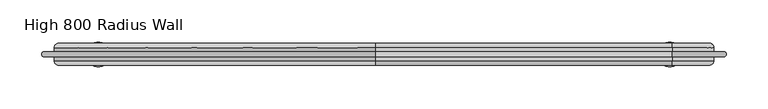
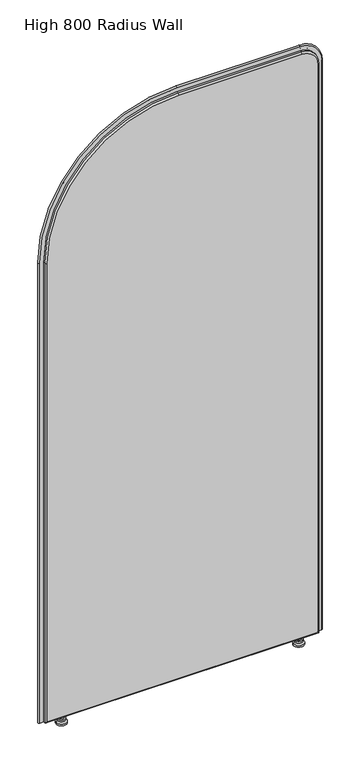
"""IFC4 building model written with IfcOpenShell, lengths in millimetres: furniture geometry, DBLTD_Sixteen3_PrivacyScreens_Artus_ArchRadius : High 800 Radius Wall."""

from ifc_helpers import new_model, si_unit, point, frame, origin, place, context, project, spatial, polyline, circle_curve, ellipse_curve, trimmed, source, transform, mapped, element, save
from ifc_brep_helpers import plane_surface, cylinder_surface, revolved_surface, advanced_brep


def high_800_radius_wall_88a6a849(model_context):
    return source(origin(), model_context, "Body", "AdvancedBrep", [
        advanced_brep(
        [(342.2938623, -820.0, 22.0), (335.2938623, -820.0, 22.0), (349.2938623, -820.0, 22.0), (335.2938623, -820.0, 15.0), (349.2938623, -820.0, 15.0), (330.8431626, -820.0, 15.0), (353.744562, -820.0, 15.0), (330.8431626, -820.0, 10.0), (353.744562, -820.0, 10.0), (327.2938623, -820.0, 5.0), (357.2938623, -820.0, 5.0), (327.2938623, -820.0, 0.0), (357.2938623, -820.0, 0.0), (342.2938623, -820.0, 0.0)],
        [
            (0, 1),
            (1, 2, circle_curve(frame((342.2938623, -820.0, 22.0), z_axis=(0.0, 0.0, 1.0), x_axis=(1.0, 0.0, 0.0)), 7.0)),
            (2, 0),
            (2, 1, circle_curve(frame((342.2938623, -820.0, 22.0), z_axis=(0.0, 0.0, 1.0), x_axis=(1.0, 0.0, 0.0)), 7.0)),
            (1, 3),
            (3, 4, circle_curve(frame((342.2938623, -820.0, 15.0), z_axis=(0.0, 0.0, 1.0), x_axis=(1.0, 0.0, 0.0)), 7.0)),
            (4, 2),
            (4, 3, circle_curve(frame((342.2938623, -820.0, 15.0), z_axis=(0.0, 0.0, 1.0), x_axis=(1.0, 0.0, 0.0)), 7.0)),
            (3, 5),
            (5, 6, circle_curve(frame((342.2938623, -820.0, 15.0), z_axis=(0.0, 0.0, 1.0), x_axis=(1.0, 0.0, 0.0)), 11.4506997)),
            (6, 4),
            (6, 5, circle_curve(frame((342.2938623, -820.0, 15.0), z_axis=(0.0, 0.0, 1.0), x_axis=(1.0, 0.0, 0.0)), 11.4506997)),
            (5, 7),
            (7, 8, circle_curve(frame((342.2938623, -820.0, 10.0), z_axis=(0.0, 0.0, 1.0), x_axis=(1.0, 0.0, 0.0)), 11.4506997)),
            (8, 6),
            (8, 7, circle_curve(frame((342.2938623, -820.0, 10.0), z_axis=(0.0, 0.0, 1.0), x_axis=(1.0, 0.0, 0.0)), 11.4506997)),
            (7, 9),
            (9, 10, circle_curve(frame((342.2938623, -820.0, 5.0), z_axis=(0.0, 0.0, 1.0), x_axis=(1.0, 0.0, 0.0)), 15.0)),
            (10, 8),
            (10, 9, circle_curve(frame((342.2938623, -820.0, 5.0), z_axis=(0.0, 0.0, 1.0), x_axis=(1.0, 0.0, 0.0)), 15.0)),
            (9, 11),
            (11, 12, circle_curve(frame((342.2938623, -820.0, 0.0), z_axis=(0.0, 0.0, 1.0), x_axis=(1.0, 0.0, 0.0)), 15.0)),
            (12, 10),
            (12, 11, circle_curve(frame((342.2938623, -820.0, 0.0), z_axis=(0.0, 0.0, 1.0), x_axis=(1.0, 0.0, 0.0)), 15.0)),
            (11, 13),
            (13, 12),
        ],
        [
            plane_surface(frame((342.2938623, -820.0, 22.0), z_axis=(0.0, 0.0, 1.0), x_axis=(1.0, 0.0, 0.0))),
            cylinder_surface(frame((342.2938623, -820.0, 5.0), z_axis=(0.0, 0.0, 1.0), x_axis=(1.0, 0.0, 0.0)), 7.0),
            plane_surface(frame((342.2938623, -820.0, 15.0), z_axis=(0.0, 0.0, 1.0), x_axis=(1.0, 0.0, 0.0))),
            cylinder_surface(frame((342.2938623, -820.0, 5.0), z_axis=(0.0, 0.0, 1.0), x_axis=(1.0, 0.0, 0.0)), 11.4506997),
            revolved_surface(polyline([(357.2938623, -820.0, 5.0), (353.744562, -820.0, 10.0)]), (342.2938623, -820.0, 5.0), (0.0, 0.0, 1.0)),
            cylinder_surface(frame((342.2938623, -820.0, 5.0), z_axis=(0.0, 0.0, 1.0), x_axis=(1.0, 0.0, 0.0)), 15.0),
            plane_surface(frame((342.2938623, -820.0, 0.0), z_axis=(0.0, 0.0, -1.0), x_axis=(1.0, 0.0, 0.0))),
        ],
        [
            (0, [[1, 2, 3]]),
            (0, [[-3, 4, -1]]),
            (1, [[5, 6, 7, -2]]),
            (1, [[-7, 8, -5, -4]]),
            (2, [[9, 10, 11, -6]]),
            (2, [[-11, 12, -9, -8]]),
            (3, [[13, 14, 15, -10]]),
            (3, [[-15, 16, -13, -12]]),
            (4, [[17, 18, 19, -14]]),
            (4, [[-19, 20, -17, -16]]),
            (5, [[21, 22, 23, -18]]),
            (5, [[-23, 24, -21, -20]]),
            (6, [[25, 26, -22]]),
            (6, [[-26, -25, -24]]),
        ],
    ),
        advanced_brep(
        [(-335.2938623, -820.0, 22.0), (-342.2938623, -820.0, 22.0), (-349.2938623, -820.0, 22.0), (-335.2938623, -820.0, 15.0), (-349.2938623, -820.0, 15.0), (-330.8431626, -820.0, 15.0), (-353.744562, -820.0, 15.0), (-330.8431626, -820.0, 10.0), (-353.744562, -820.0, 10.0), (-327.2938623, -820.0, 5.0), (-357.2938623, -820.0, 5.0), (-327.2938623, -820.0, 0.0), (-357.2938623, -820.0, 0.0), (-342.2938623, -820.0, 0.0)],
        [
            (0, 1),
            (1, 2),
            (2, 0, circle_curve(frame((-342.2938623, -820.0, 22.0), z_axis=(0.0, 0.0, 1.0), x_axis=(-1.0, 0.0, 0.0)), 7.0)),
            (0, 2, circle_curve(frame((-342.2938623, -820.0, 22.0), z_axis=(0.0, 0.0, 1.0), x_axis=(-1.0, 0.0, 0.0)), 7.0)),
            (3, 0),
            (2, 4),
            (4, 3, circle_curve(frame((-342.2938623, -820.0, 15.0), z_axis=(0.0, 0.0, 1.0), x_axis=(-1.0, 0.0, 0.0)), 7.0)),
            (3, 4, circle_curve(frame((-342.2938623, -820.0, 15.0), z_axis=(0.0, 0.0, 1.0), x_axis=(-1.0, 0.0, 0.0)), 7.0)),
            (5, 3),
            (4, 6),
            (6, 5, circle_curve(frame((-342.2938623, -820.0, 15.0), z_axis=(0.0, 0.0, 1.0), x_axis=(-1.0, 0.0, 0.0)), 11.4506997)),
            (5, 6, circle_curve(frame((-342.2938623, -820.0, 15.0), z_axis=(0.0, 0.0, 1.0), x_axis=(-1.0, 0.0, 0.0)), 11.4506997)),
            (7, 5),
            (6, 8),
            (8, 7, circle_curve(frame((-342.2938623, -820.0, 10.0), z_axis=(0.0, 0.0, 1.0), x_axis=(-1.0, 0.0, 0.0)), 11.4506997)),
            (7, 8, circle_curve(frame((-342.2938623, -820.0, 10.0), z_axis=(0.0, 0.0, 1.0), x_axis=(-1.0, 0.0, 0.0)), 11.4506997)),
            (9, 7),
            (8, 10),
            (10, 9, circle_curve(frame((-342.2938623, -820.0, 5.0), z_axis=(0.0, 0.0, 1.0), x_axis=(-1.0, 0.0, 0.0)), 15.0)),
            (9, 10, circle_curve(frame((-342.2938623, -820.0, 5.0), z_axis=(0.0, 0.0, 1.0), x_axis=(-1.0, 0.0, 0.0)), 15.0)),
            (11, 9),
            (10, 12),
            (12, 11, circle_curve(frame((-342.2938623, -820.0, 0.0), z_axis=(0.0, 0.0, 1.0), x_axis=(-1.0, 0.0, 0.0)), 15.0)),
            (11, 12, circle_curve(frame((-342.2938623, -820.0, 0.0), z_axis=(0.0, 0.0, 1.0), x_axis=(-1.0, 0.0, 0.0)), 15.0)),
            (13, 11),
            (12, 13),
        ],
        [
            plane_surface(frame((-342.2938623, -820.0, 22.0), z_axis=(0.0, 0.0, 1.0), x_axis=(-1.0, 0.0, 0.0))),
            cylinder_surface(frame((-342.2938623, -820.0, 5.0), z_axis=(0.0, 0.0, -1.0), x_axis=(-1.0, 0.0, 0.0)), 7.0),
            plane_surface(frame((-342.2938623, -820.0, 15.0), z_axis=(0.0, 0.0, 1.0), x_axis=(-1.0, 0.0, 0.0))),
            cylinder_surface(frame((-342.2938623, -820.0, 5.0), z_axis=(0.0, 0.0, -1.0), x_axis=(-1.0, 0.0, 0.0)), 11.4506997),
            revolved_surface(polyline([(-353.744562, -820.0, 10.0), (-357.2938623, -820.0, 5.0)]), (-342.2938623, -820.0, 5.0), (0.0, 0.0, -1.0)),
            cylinder_surface(frame((-342.2938623, -820.0, 5.0), z_axis=(0.0, 0.0, -1.0), x_axis=(-1.0, 0.0, 0.0)), 15.0),
            plane_surface(frame((-342.2938623, -820.0, 0.0), z_axis=(0.0, 0.0, -1.0), x_axis=(-1.0, 0.0, 0.0))),
        ],
        [
            (0, [[1, 2, 3]]),
            (0, [[-2, -1, 4]]),
            (1, [[5, -3, 6, 7]]),
            (1, [[-6, -4, -5, 8]]),
            (2, [[9, -7, 10, 11]]),
            (2, [[-10, -8, -9, 12]]),
            (3, [[13, -11, 14, 15]]),
            (3, [[-14, -12, -13, 16]]),
            (4, [[17, -15, 18, 19]]),
            (4, [[-18, -16, -17, 20]]),
            (5, [[21, -19, 22, 23]]),
            (5, [[-22, -20, -21, 24]]),
            (6, [[25, -23, 26]]),
            (6, [[-26, -24, -25]]),
        ],
    ),
        advanced_brep(
        [(-390.0, -807.0, 27.0), (-390.0, -807.0, 1425.0), (-10.0, -807.0, 1805.0), (345.0, -807.0, 1805.0), (390.0, -807.0, 1760.0), (390.0, -807.0, 27.0), (390.0, -833.0, 27.0), (390.0, -833.0, 1760.0), (345.0, -833.0, 1805.0), (-10.0, -833.0, 1805.0), (-390.0, -833.0, 1425.0), (-390.0, -833.0, 27.0), (345.0, -812.0, 1810.0), (-10.0, -812.0, 1810.0), (-10.0, -828.0, 1810.0), (345.0, -828.0, 1810.0), (-395.0, -812.0, 1425.0), (-395.0, -828.0, 1425.0), (-395.0, -812.0, 22.0), (-395.0, -828.0, 22.0), (395.0, -812.0, 22.0), (395.0, -828.0, 22.0), (395.0, -812.0, 1760.0), (395.0, -828.0, 1760.0)],
        [
            (0, 1),
            (1, 2, circle_curve(frame((-10.0, -807.0, 1425.0), z_axis=(0.0, 1.0, 0.0), x_axis=(0.0, 0.0, 1.0)), 380.0)),
            (2, 3),
            (3, 4, circle_curve(frame((345.0, -807.0, 1760.0), z_axis=(0.0, 1.0, 0.0), x_axis=(1.0, 0.0, 0.0)), 45.0)),
            (4, 5),
            (5, 0),
            (6, 7),
            (7, 8, circle_curve(frame((345.0, -833.0, 1760.0), z_axis=(0.0, -1.0, 0.0), x_axis=(1.0, 0.0, 0.0)), 45.0)),
            (8, 9),
            (9, 10, circle_curve(frame((-10.0, -833.0, 1425.0), z_axis=(0.0, -1.0, 0.0), x_axis=(0.0, 0.0, 1.0)), 380.0)),
            (10, 11),
            (11, 6),
            (12, 13),
            (13, 14),
            (14, 15),
            (15, 12),
            (13, 16, circle_curve(frame((-10.0, -812.0, 1425.0), z_axis=(0.0, -1.0, 0.0), x_axis=(1.0, 0.0, 0.0)), 385.0)),
            (16, 17),
            (17, 14, circle_curve(frame((-10.0, -828.0, 1425.0), z_axis=(0.0, 1.0, 0.0), x_axis=(1.0, 0.0, 0.0)), 385.0)),
            (16, 18),
            (18, 19),
            (19, 17),
            (18, 20),
            (20, 21),
            (21, 19),
            (20, 22),
            (22, 23),
            (23, 21),
            (15, 23, circle_curve(frame((345.0, -828.0, 1760.0), z_axis=(0.0, 1.0, 0.0), x_axis=(1.0, 0.0, 0.0)), 50.0)),
            (22, 12, circle_curve(frame((345.0, -812.0, 1760.0), z_axis=(0.0, -1.0, 0.0), x_axis=(1.0, 0.0, 0.0)), 50.0)),
            (18, 0, ellipse_curve(frame((-390.0, -812.0, 27.0), z_axis=(0.7071067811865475, 0.0, -0.7071067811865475), x_axis=(0.7071067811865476, 0.0, 0.7071067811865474)), 7.0710678, 5.0)),
            (5, 20, ellipse_curve(frame((390.0, -812.0, 27.0), z_axis=(-0.7071067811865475, 0.0, -0.7071067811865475), x_axis=(0.7071067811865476, 0.0, -0.7071067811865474)), 7.0710678, 5.0)),
            (11, 19, ellipse_curve(frame((-390.0, -828.0, 27.0), z_axis=(0.7071067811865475, 0.0, -0.7071067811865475), x_axis=(0.7071067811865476, 0.0, 0.7071067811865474)), 7.0710678, 5.0)),
            (21, 6, ellipse_curve(frame((390.0, -828.0, 27.0), z_axis=(-0.7071067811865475, 0.0, -0.7071067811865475), x_axis=(0.7071067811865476, 0.0, -0.7071067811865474)), 7.0710678, 5.0)),
            (4, 22, circle_curve(frame((390.0, -812.0, 1760.0), z_axis=(0.0, 0.0, -1.0), x_axis=(1.0, 0.0, 0.0)), 5.0)),
            (23, 7, circle_curve(frame((390.0, -828.0, 1760.0), z_axis=(0.0, 0.0, -1.0), x_axis=(1.0, 0.0, 0.0)), 5.0)),
            (3, 12, circle_curve(frame((345.0, -812.0, 1805.0), z_axis=(1.0, 0.0, 0.0), x_axis=(0.0, 0.0, 1.0)), 5.0)),
            (15, 8, circle_curve(frame((345.0, -828.0, 1805.0), z_axis=(1.0, 0.0, 0.0), x_axis=(0.0, 0.0, 1.0)), 5.0)),
            (2, 13, circle_curve(frame((-10.0, -812.0, 1805.0), z_axis=(1.0, 0.0, 0.0), x_axis=(0.0, 0.0, 1.0)), 5.0)),
            (14, 9, circle_curve(frame((-10.0, -828.0, 1805.0), z_axis=(1.0, 0.0, 0.0), x_axis=(0.0, 0.0, 1.0)), 5.0)),
            (1, 16, circle_curve(frame((-390.0, -812.0, 1425.0), z_axis=(0.0, 0.0, 1.0), x_axis=(-1.0, 0.0, 0.0)), 5.0)),
            (17, 10, circle_curve(frame((-390.0, -828.0, 1425.0), z_axis=(0.0, 0.0, 1.0), x_axis=(-1.0, 0.0, 0.0)), 5.0)),
        ],
        [
            plane_surface(frame((-10.0, -807.0, 1810.0), z_axis=(0.0, 1.0, 0.0), x_axis=(-1.0, 0.0, 0.0))),
            plane_surface(frame((-10.0, -833.0, 1810.0), z_axis=(0.0, -1.0, 0.0), x_axis=(1.0, 0.0, 0.0))),
            plane_surface(frame((345.0, -807.0, 1810.0), z_axis=(0.0, 0.0, 1.0), x_axis=(0.0, -1.0, 0.0))),
            cylinder_surface(frame((-10.0, -833.0, 1425.0), z_axis=(0.0, 1.0, 0.0), x_axis=(1.0, 0.0, 0.0)), 385.0),
            plane_surface(frame((-395.0, -807.0, 1425.0), z_axis=(-1.0, 0.0, 0.0), x_axis=(0.0, -1.0, 0.0))),
            plane_surface(frame((-395.0, -807.0, 22.0), z_axis=(0.0, 0.0, -1.0), x_axis=(0.0, -1.0, 0.0))),
            plane_surface(frame((395.0, -807.0, 22.0), z_axis=(1.0, 0.0, 0.0), x_axis=(0.0, -1.0, 0.0))),
            cylinder_surface(frame((345.0, -833.0, 1760.0), z_axis=(0.0, 1.0, 0.0), x_axis=(1.0, 0.0, 0.0)), 50.0),
            cylinder_surface(frame((-395.0, -812.0, 27.0), z_axis=(1.0, 0.0, 0.0), x_axis=(0.0, 0.0, -1.0)), 5.0),
            cylinder_surface(frame((-395.0, -828.0, 27.0), z_axis=(1.0, 0.0, 0.0), x_axis=(0.0, 0.0, -1.0)), 5.0),
            cylinder_surface(frame((390.0, -812.0, 22.0), z_axis=(0.0, 0.0, 1.0), x_axis=(1.0, 0.0, 0.0)), 5.0),
            cylinder_surface(frame((390.0, -828.0, 22.0), z_axis=(0.0, 0.0, 1.0), x_axis=(1.0, 0.0, 0.0)), 5.0),
            revolved_surface(trimmed(ellipse_curve(frame((390.0, -812.0, 1760.0), z_axis=(0.0, 0.0, 1.0), x_axis=(1.0, 0.0, 0.0)), 5.0, 5.0), [point((395.0, -812.0, 1760.0))], [point((390.0, -807.0, 1760.0))], True, "CARTESIAN"), (345.0, -807.0, 1760.0), (0.0, 1.0, 0.0)),
            revolved_surface(trimmed(ellipse_curve(frame((390.0, -828.0, 1760.0), z_axis=(0.0, 0.0, 1.0), x_axis=(1.0, 0.0, 0.0)), 5.0, 5.0), [point((390.0, -833.0, 1760.0))], [point((395.0, -828.0, 1760.0))], True, "CARTESIAN"), (345.0, -807.0, 1760.0), (0.0, 1.0, 0.0)),
            cylinder_surface(frame((345.0, -812.0, 1805.0), z_axis=(-1.0, 0.0, 0.0), x_axis=(0.0, 0.0, 1.0)), 5.0),
            cylinder_surface(frame((345.0, -828.0, 1805.0), z_axis=(-1.0, 0.0, 0.0), x_axis=(0.0, 0.0, 1.0)), 5.0),
            revolved_surface(trimmed(ellipse_curve(frame((-10.0, -812.0, 1805.0), z_axis=(-1.0, 0.0, 0.0), x_axis=(0.0, 0.0, 1.0)), 5.0, 5.0), [point((-10.0, -812.0, 1810.0))], [point((-10.0, -807.0, 1805.0))], True, "CARTESIAN"), (-10.0, -807.0, 1425.0), (0.0, 1.0, 0.0)),
            revolved_surface(trimmed(ellipse_curve(frame((-10.0, -828.0, 1805.0), z_axis=(-1.0, 0.0, 0.0), x_axis=(0.0, 0.0, 1.0)), 5.0, 5.0), [point((-10.0, -833.0, 1805.0))], [point((-10.0, -828.0, 1810.0))], True, "CARTESIAN"), (-10.0, -807.0, 1425.0), (0.0, 1.0, 0.0)),
            cylinder_surface(frame((-390.0, -812.0, 1425.0), z_axis=(0.0, 0.0, -1.0), x_axis=(-1.0, 0.0, 0.0)), 5.0),
            cylinder_surface(frame((-390.0, -828.0, 1425.0), z_axis=(0.0, 0.0, -1.0), x_axis=(-1.0, 0.0, 0.0)), 5.0),
        ],
        [
            (0, [[1, 2, 3, 4, 5, 6]]),
            (1, [[7, 8, 9, 10, 11, 12]]),
            (2, [[13, 14, 15, 16]]),
            (3, [[17, 18, 19, -14]]),
            (4, [[20, 21, 22, -18]]),
            (5, [[23, 24, 25, -21]]),
            (6, [[26, 27, 28, -24]]),
            (7, [[29, -27, 30, -16]]),
            (8, [[-23, 31, -6, 32]]),
            (9, [[-12, 33, -25, 34]]),
            (10, [[-5, 35, -26, -32]]),
            (11, [[-28, 36, -7, -34]]),
            (12, [[-4, 37, -30, -35]]),
            (13, [[-29, 38, -8, -36]]),
            (14, [[-3, 39, -13, -37]]),
            (15, [[-15, 40, -9, -38]]),
            (16, [[-2, 41, -17, -39]]),
            (17, [[-19, 42, -10, -40]]),
            (18, [[-20, -41, -1, -31]]),
            (19, [[-11, -42, -22, -33]]),
        ],
    ),
        advanced_brep(
        [(406.9577057, -823.0, 22.0), (395.0, -823.0, 22.0), (395.0, -817.0, 22.0), (406.9577057, -817.0, 22.0), (406.9577057, -817.0, 1760.0), (406.9577057, -823.0, 1760.0), (395.0, -817.0, 1760.0), (345.0, -817.0, 1810.0), (-10.0, -817.0, 1810.0), (-395.0, -817.0, 1425.0), (-395.0, -817.0, 22.0), (-406.9577057, -817.0, 22.0), (-406.9577057, -817.0, 1425.0), (-10.0, -817.0, 1821.9577057), (345.0, -817.0, 1821.9577057), (395.0, -823.0, 1760.0), (345.0, -823.0, 1821.9577057), (-10.0, -823.0, 1821.9577057), (-406.9577057, -823.0, 1425.0), (-406.9577057, -823.0, 22.0), (-395.0, -823.0, 22.0), (-395.0, -823.0, 1425.0), (-10.0, -823.0, 1810.0), (345.0, -823.0, 1810.0)],
        [
            (0, 1),
            (1, 2),
            (2, 3),
            (3, 0, circle_curve(frame((406.9577057, -820.0, 22.0), z_axis=(0.0, 0.0, -1.0), x_axis=(1.0, 0.0, 0.0)), 3.0)),
            (3, 4),
            (4, 5, circle_curve(frame((406.9577057, -820.0, 1760.0), z_axis=(0.0, 0.0, -1.0), x_axis=(1.0, 0.0, 0.0)), 3.0)),
            (5, 0),
            (2, 6),
            (6, 7, circle_curve(frame((345.0, -817.0, 1760.0), z_axis=(0.0, -1.0, 0.0), x_axis=(1.0, 0.0, 0.0)), 50.0)),
            (7, 8),
            (8, 9, circle_curve(frame((-10.0, -817.0, 1425.0), z_axis=(0.0, -1.0, 0.0), x_axis=(0.0, 0.0, 1.0)), 385.0)),
            (9, 10),
            (10, 11),
            (11, 12),
            (12, 13, circle_curve(frame((-10.0, -817.0, 1425.0), z_axis=(0.0, 1.0, 0.0), x_axis=(0.0, 0.0, 1.0)), 396.9577057)),
            (13, 14),
            (14, 4, circle_curve(frame((345.0, -817.0, 1760.0), z_axis=(0.0, 1.0, 0.0), x_axis=(1.0, 0.0, 0.0)), 61.9577057)),
            (1, 15),
            (15, 6),
            (5, 16, circle_curve(frame((345.0, -823.0, 1760.0), z_axis=(0.0, -1.0, 0.0), x_axis=(1.0, 0.0, 0.0)), 61.9577057)),
            (16, 17),
            (17, 18, circle_curve(frame((-10.0, -823.0, 1425.0), z_axis=(0.0, -1.0, 0.0), x_axis=(0.0, 0.0, 1.0)), 396.9577057)),
            (18, 19),
            (19, 20),
            (20, 21),
            (21, 22, circle_curve(frame((-10.0, -823.0, 1425.0), z_axis=(0.0, 1.0, 0.0), x_axis=(0.0, 0.0, 1.0)), 385.0)),
            (22, 23),
            (23, 15, circle_curve(frame((345.0, -823.0, 1760.0), z_axis=(0.0, 1.0, 0.0), x_axis=(1.0, 0.0, 0.0)), 50.0)),
            (14, 16, circle_curve(frame((345.0, -820.0, 1821.9577057), z_axis=(1.0, 0.0, 0.0), x_axis=(0.0, 0.0, 1.0)), 3.0)),
            (23, 7),
            (13, 17, circle_curve(frame((-10.0, -820.0, 1821.9577057), z_axis=(1.0, 0.0, 0.0), x_axis=(0.0, 0.0, 1.0)), 3.0)),
            (22, 8),
            (12, 18, circle_curve(frame((-406.9577057, -820.0, 1425.0), z_axis=(0.0, 0.0, 1.0), x_axis=(-1.0, 0.0, 0.0)), 3.0)),
            (21, 9),
            (19, 11, circle_curve(frame((-406.9577057, -820.0, 22.0), z_axis=(0.0, 0.0, -1.0), x_axis=(-1.0, 0.0, 0.0)), 3.0)),
            (10, 20),
        ],
        [
            plane_surface(frame((395.0, -807.0, 22.0), z_axis=(0.0, 0.0, -1.0), x_axis=(1.0, 0.0, 0.0))),
            cylinder_surface(frame((406.9577057, -820.0, 22.0), z_axis=(0.0, 0.0, -1.0), x_axis=(1.0, 0.0, 0.0)), 3.0),
            plane_surface(frame((406.9577057, -817.0, 22.0), z_axis=(0.0, 1.0, 0.0), x_axis=(0.0, 0.0, 1.0))),
            plane_surface(frame((395.0, -817.0, 22.0), z_axis=(-1.0, 0.0, 0.0), x_axis=(0.0, 0.0, 1.0))),
            plane_surface(frame((395.0, -823.0, 22.0), z_axis=(0.0, -1.0, 0.0), x_axis=(0.0, 0.0, 1.0))),
            revolved_surface(trimmed(ellipse_curve(frame((406.9577057, -820.0, 1760.0), z_axis=(0.0, 0.0, 1.0), x_axis=(1.0, 0.0, 0.0)), 3.0, 3.0), [point((406.9577057, -823.0, 1760.0))], [point((406.9577057, -817.0, 1760.0))], True, "CARTESIAN"), (345.0, -807.0, 1760.0), (0.0, 1.0, 0.0)),
            revolved_surface(polyline([(395.0, -817.0, 1760.0), (395.0, -823.0, 1760.0)]), (345.0, -807.0, 1760.0), (0.0, 1.0, 0.0)),
            cylinder_surface(frame((345.0, -820.0, 1821.9577057), z_axis=(1.0, 0.0, 0.0), x_axis=(0.0, 0.0, 1.0)), 3.0),
            plane_surface(frame((345.0, -817.0, 1810.0), z_axis=(0.0, 0.0, -1.0), x_axis=(-1.0, 0.0, 0.0))),
            revolved_surface(trimmed(ellipse_curve(frame((-10.0, -820.0, 1821.9577057), z_axis=(-1.0, 0.0, 0.0), x_axis=(0.0, 0.0, 1.0)), 3.0, 3.0), [point((-10.0, -823.0, 1821.9577057))], [point((-10.0, -817.0, 1821.9577057))], True, "CARTESIAN"), (-10.0, -807.0, 1425.0), (0.0, 1.0, 0.0)),
            revolved_surface(polyline([(-10.0, -817.0, 1810.0), (-10.0, -823.0, 1810.0)]), (-10.0, -807.0, 1425.0), (0.0, 1.0, 0.0)),
            plane_surface(frame((-395.0, -807.0, 22.0), z_axis=(0.0, 0.0, -1.0), x_axis=(-1.0, 0.0, 0.0))),
            cylinder_surface(frame((-406.9577057, -820.0, 1425.0), z_axis=(0.0, 0.0, 1.0), x_axis=(-1.0, 0.0, 0.0)), 3.0),
            plane_surface(frame((-395.0, -817.0, 1425.0), z_axis=(1.0, 0.0, 0.0), x_axis=(0.0, 0.0, -1.0))),
        ],
        [
            (0, [[1, 2, 3, 4]]),
            (1, [[5, 6, 7, -4]]),
            (2, [[8, 9, 10, 11, 12, 13, 14, 15, 16, 17, -5, -3]]),
            (3, [[18, 19, -8, -2]]),
            (4, [[-7, 20, 21, 22, 23, 24, 25, 26, 27, 28, -18, -1]]),
            (5, [[29, -20, -6, -17]]),
            (6, [[30, -9, -19, -28]]),
            (7, [[-16, 31, -21, -29]]),
            (8, [[-27, 32, -10, -30]]),
            (9, [[33, -22, -31, -15]]),
            (10, [[34, -11, -32, -26]]),
            (11, [[35, -13, 36, -24]]),
            (12, [[-14, -35, -23, -33]]),
            (13, [[-25, -36, -12, -34]]),
        ],
    ),
    ])


if __name__ == "__main__":
    model = new_model("IFC4")
    model_context = context("Model", 3, world=origin())
    ifc_project = project(units=[si_unit("LENGTHUNIT", "METRE", prefix="MILLI")], contexts=[model_context])
    site = spatial("IfcSite", under=ifc_project)
    building = spatial("IfcBuilding", under=site)
    placement = place(None, origin())
    high_800_radius_wall_shape = high_800_radius_wall_88a6a849(model_context)
    element("IfcFurniture", 1, ObjectType="DBLTD_Sixteen3_PrivacyScreens_Artus_ArchRadius : High 800 Radius Wall", at=placement, inside=building, context=model_context, shape_type="MappedRepresentation", body=[
        mapped(high_800_radius_wall_shape, transform((0.0, 0.0, 0.0), x_axis=(1.0, 0.0, 0.0), y_axis=(0.0, 1.0, 0.0), z_axis=(0.0, 0.0, 1.0))),
    ])
    save(model, "model.ifc")
